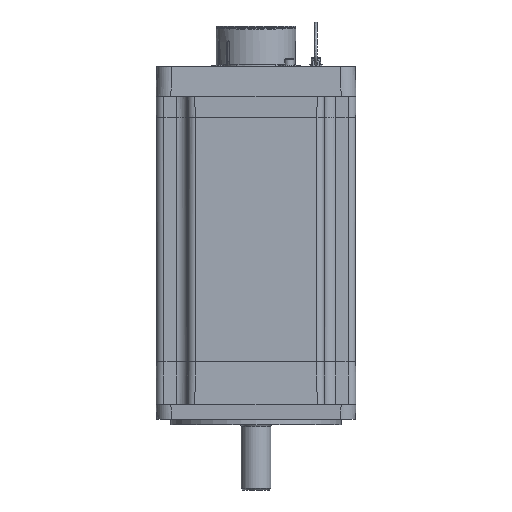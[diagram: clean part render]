
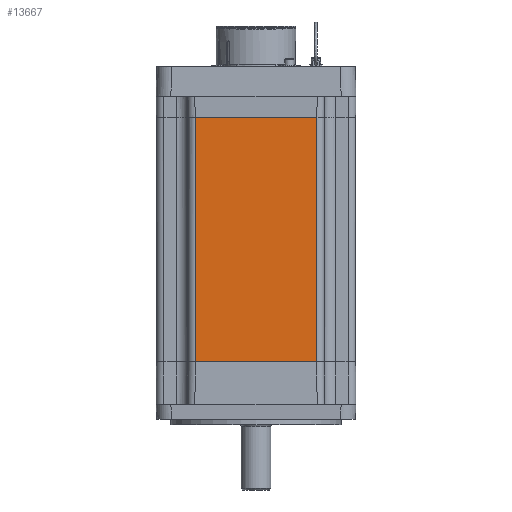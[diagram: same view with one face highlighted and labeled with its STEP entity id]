
A CAD part, front view. The second image highlights one B-rep face of the part: STEP entity #13667.
In plain terms, the highlighted planar face has unit normal (0, -1, 0).
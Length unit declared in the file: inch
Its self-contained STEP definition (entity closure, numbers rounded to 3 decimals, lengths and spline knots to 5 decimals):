
#13253=CARTESIAN_POINT('',(1.025,-1.68,0.725));
#13254=VERTEX_POINT('',#13253);
#13262=CARTESIAN_POINT('',(-1.025,-1.68,0.725));
#13263=VERTEX_POINT('',#13262);
#13264=CARTESIAN_POINT('',(1.025,-1.68,0.725));
#13265=DIRECTION('',(-1.0,0.0,0.0));
#13266=VECTOR('',#13265,2.05);
#13267=LINE('',#13264,#13266);
#13268=EDGE_CURVE('',#13254,#13263,#13267,.T.);
#13624=CARTESIAN_POINT('',(1.025,-1.68,4.845));
#13625=VERTEX_POINT('',#13624);
#13633=CARTESIAN_POINT('',(1.025,-1.68,4.845));
#13634=DIRECTION('',(0.0,0.0,-1.0));
#13635=VECTOR('',#13634,4.12);
#13636=LINE('',#13633,#13635);
#13637=EDGE_CURVE('',#13625,#13254,#13636,.T.);
#13644=CARTESIAN_POINT('',(1.15,-1.68,0.725));
#13645=DIRECTION('',(0.0,-1.0,0.0));
#13646=DIRECTION('',(0.0,0.0,-1.0));
#13647=AXIS2_PLACEMENT_3D('',#13644,#13645,#13646);
#13648=PLANE('',#13647);
#13649=CARTESIAN_POINT('',(-1.025,-1.68,4.845));
#13650=VERTEX_POINT('',#13649);
#13651=CARTESIAN_POINT('',(-1.025,-1.68,0.725));
#13652=DIRECTION('',(0.0,0.0,1.0));
#13653=VECTOR('',#13652,4.12);
#13654=LINE('',#13651,#13653);
#13655=EDGE_CURVE('',#13263,#13650,#13654,.T.);
#13656=ORIENTED_EDGE('',*,*,#13655,.F.);
#13657=ORIENTED_EDGE('',*,*,#13268,.F.);
#13658=ORIENTED_EDGE('',*,*,#13637,.F.);
#13659=CARTESIAN_POINT('',(1.025,-1.68,4.845));
#13660=DIRECTION('',(-1.0,0.0,0.0));
#13661=VECTOR('',#13660,2.05);
#13662=LINE('',#13659,#13661);
#13663=EDGE_CURVE('',#13625,#13650,#13662,.T.);
#13664=ORIENTED_EDGE('',*,*,#13663,.T.);
#13665=EDGE_LOOP('',(#13656,#13657,#13658,#13664));
#13666=FACE_OUTER_BOUND('',#13665,.T.);
#13667=ADVANCED_FACE('',(#13666),#13648,.T.);
